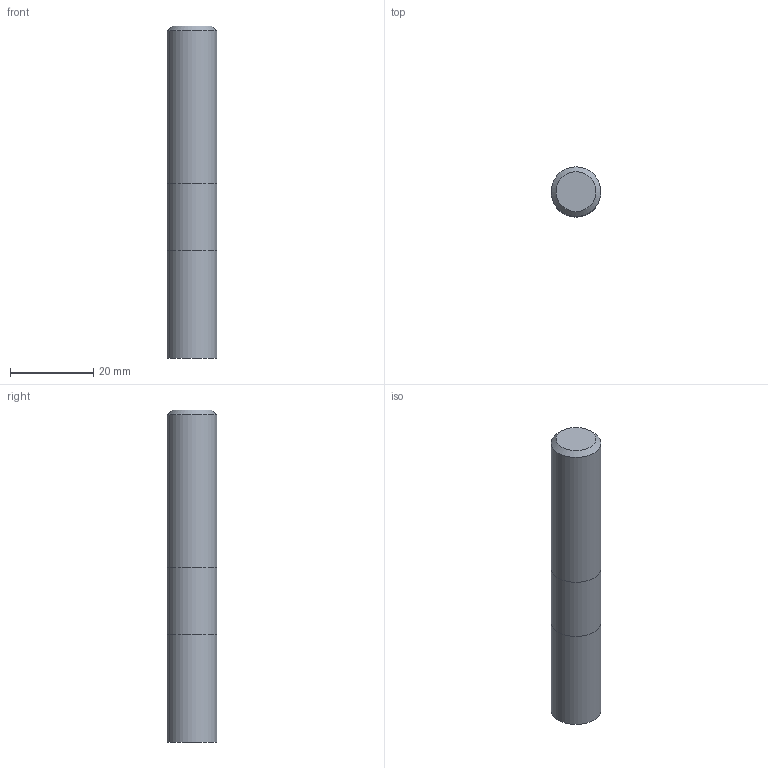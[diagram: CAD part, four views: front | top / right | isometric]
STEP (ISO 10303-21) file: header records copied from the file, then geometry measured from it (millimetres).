
FILE_DESCRIPTION((''),'2;1');
FILE_NAME('C:\Users\nsx150\AppData\Local\Temp\Mastercam 2021\98T1Q6BTT1\TEMP.step','2021-10-21T14:50:34',(''),(''),'STEP Write','Mastercam 2021 ... CNC Software, Inc.','');
FILE_SCHEMA(('AUTOMOTIVE_DESIGN'));
Length unit declared in the file: millimetre
Products named in the file (1): None
Bounding box: 12 x 12 x 80 mm (x, y, z)
Volume: 9022.5 mm3; surface area: 3439.9 mm2
Topology: 2 solids, 2 shells, 8 faces, 10 edges, 6 vertices
Faces by surface type: plane 4, cylinder 3, cone 1
Full cylindrical faces by diameter (mm): 12 x3
Entity records: 190 total; most frequent: DIRECTION 32, CARTESIAN_POINT 22, AXIS2_PLACEMENT_3D 16, ORIENTED_EDGE 12, EDGE_LOOP 12, STYLED_ITEM 11, ADVANCED_FACE 8, FACE_BOUND 7
